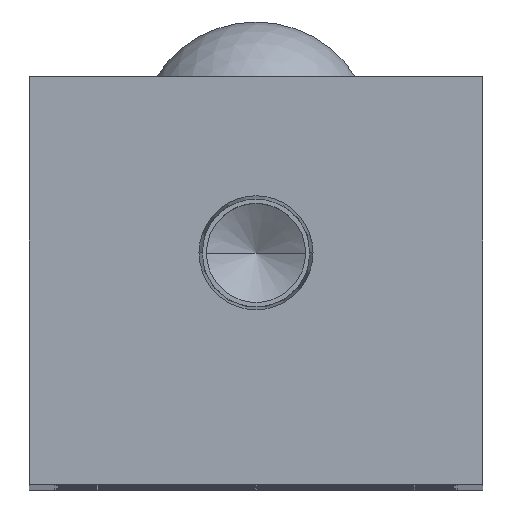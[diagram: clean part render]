
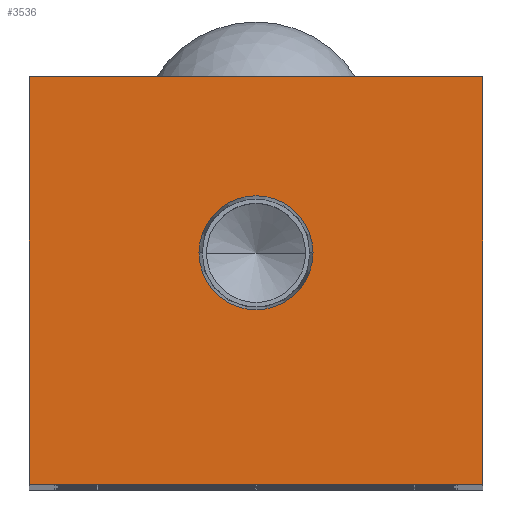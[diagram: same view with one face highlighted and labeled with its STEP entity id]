
A CAD part, top view. The second image highlights one B-rep face of the part: STEP entity #3536.
In plain terms, the highlighted planar face has unit normal (0, 0, 1).
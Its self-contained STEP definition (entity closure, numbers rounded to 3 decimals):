
#148 = ORIENTED_EDGE ( 'NONE', *, *, #7567, .T. ) ;
#287 = DIRECTION ( 'NONE',  ( -1., 0., 0. ) ) ;
#461 = DIRECTION ( 'NONE',  ( 1., 0., 0. ) ) ;
#958 = DIRECTION ( 'NONE',  ( 0., -1., 0. ) ) ;
#1222 = DIRECTION ( 'NONE',  ( 0., 0., 1. ) ) ;
#1548 = DIRECTION ( 'NONE',  ( 1., 0., 0. ) ) ;
#1696 = CARTESIAN_POINT ( 'NONE',  ( 24.5, 44., 0. ) ) ;
#1847 = LINE ( 'NONE', #5846, #3279 ) ;
#2078 = EDGE_CURVE ( 'NONE', #6502, #3589, #1847, .T. ) ;
#2113 = EDGE_CURVE ( 'NONE', #7113, #6502, #6801, .T. ) ;
#2263 = DIRECTION ( 'NONE',  ( 0., 1., 0. ) ) ;
#2493 = LINE ( 'NONE', #7174, #4351 ) ;
#2612 = ORIENTED_EDGE ( 'NONE', *, *, #2113, .T. ) ;
#2741 = FACE_BOUND ( 'NONE', #5134, .T. ) ;
#3051 = VECTOR ( 'NONE', #3757, 1000. ) ;
#3152 = CARTESIAN_POINT ( 'NONE',  ( 6.154, 25., 0. ) ) ;
#3279 = VECTOR ( 'NONE', #958, 1000. ) ;
#3425 = AXIS2_PLACEMENT_3D ( 'NONE', #8890, #4655, #461 ) ;
#3536 = ADVANCED_FACE ( 'NONE', ( #2741, #4361 ), #6590, .F. ) ;
#3589 = VERTEX_POINT ( 'NONE', #4553 ) ;
#3757 = DIRECTION ( 'NONE',  ( -1., 0., 0. ) ) ;
#3995 = ORIENTED_EDGE ( 'NONE', *, *, #4971, .F. ) ;
#4016 = EDGE_CURVE ( 'NONE', #6494, #7113, #2493, .T. ) ;
#4333 = CIRCLE ( 'NONE', #4982, 6.154 ) ;
#4351 = VECTOR ( 'NONE', #2263, 1000. ) ;
#4361 = FACE_OUTER_BOUND ( 'NONE', #7764, .T. ) ;
#4430 = ORIENTED_EDGE ( 'NONE', *, *, #2078, .T. ) ;
#4499 = DIRECTION ( 'NONE',  ( 0., 0., -1. ) ) ;
#4506 = CARTESIAN_POINT ( 'NONE',  ( -24.5, 44., 0. ) ) ;
#4553 = CARTESIAN_POINT ( 'NONE',  ( -24.5, 0., 0. ) ) ;
#4655 = DIRECTION ( 'NONE',  ( 0., 0., 1. ) ) ;
#4724 = AXIS2_PLACEMENT_3D ( 'NONE', #5873, #4499, #287 ) ;
#4971 = EDGE_CURVE ( 'NONE', #6310, #7232, #4333, .T. ) ;
#4982 = AXIS2_PLACEMENT_3D ( 'NONE', #5406, #1222, #6128 ) ;
#5134 = EDGE_LOOP ( 'NONE', ( #3995, #8597 ) ) ;
#5142 = EDGE_CURVE ( 'NONE', #7232, #6310, #6547, .T. ) ;
#5259 = ORIENTED_EDGE ( 'NONE', *, *, #4016, .T. ) ;
#5406 = CARTESIAN_POINT ( 'NONE',  ( 0., 25., 0. ) ) ;
#5699 = VECTOR ( 'NONE', #1548, 1000. ) ;
#5846 = CARTESIAN_POINT ( 'NONE',  ( -24.5, 0., 0. ) ) ;
#5873 = CARTESIAN_POINT ( 'NONE',  ( 0., 0., 0. ) ) ;
#6128 = DIRECTION ( 'NONE',  ( 1., 0., 0. ) ) ;
#6310 = VERTEX_POINT ( 'NONE', #3152 ) ;
#6464 = CARTESIAN_POINT ( 'NONE',  ( 24.5, 0., 0. ) ) ;
#6494 = VERTEX_POINT ( 'NONE', #8484 ) ;
#6502 = VERTEX_POINT ( 'NONE', #7805 ) ;
#6547 = CIRCLE ( 'NONE', #3425, 6.154 ) ;
#6590 = PLANE ( 'NONE',  #4724 ) ;
#6801 = LINE ( 'NONE', #4506, #3051 ) ;
#7113 = VERTEX_POINT ( 'NONE', #1696 ) ;
#7174 = CARTESIAN_POINT ( 'NONE',  ( 24.5, 44., 0. ) ) ;
#7232 = VERTEX_POINT ( 'NONE', #7454 ) ;
#7454 = CARTESIAN_POINT ( 'NONE',  ( -6.154, 25., 0. ) ) ;
#7567 = EDGE_CURVE ( 'NONE', #3589, #6494, #7596, .T. ) ;
#7596 = LINE ( 'NONE', #6464, #5699 ) ;
#7764 = EDGE_LOOP ( 'NONE', ( #4430, #148, #5259, #2612 ) ) ;
#7805 = CARTESIAN_POINT ( 'NONE',  ( -24.5, 44., 0. ) ) ;
#8484 = CARTESIAN_POINT ( 'NONE',  ( 24.5, 0., 0. ) ) ;
#8597 = ORIENTED_EDGE ( 'NONE', *, *, #5142, .F. ) ;
#8890 = CARTESIAN_POINT ( 'NONE',  ( 0., 25., 0. ) ) ;
